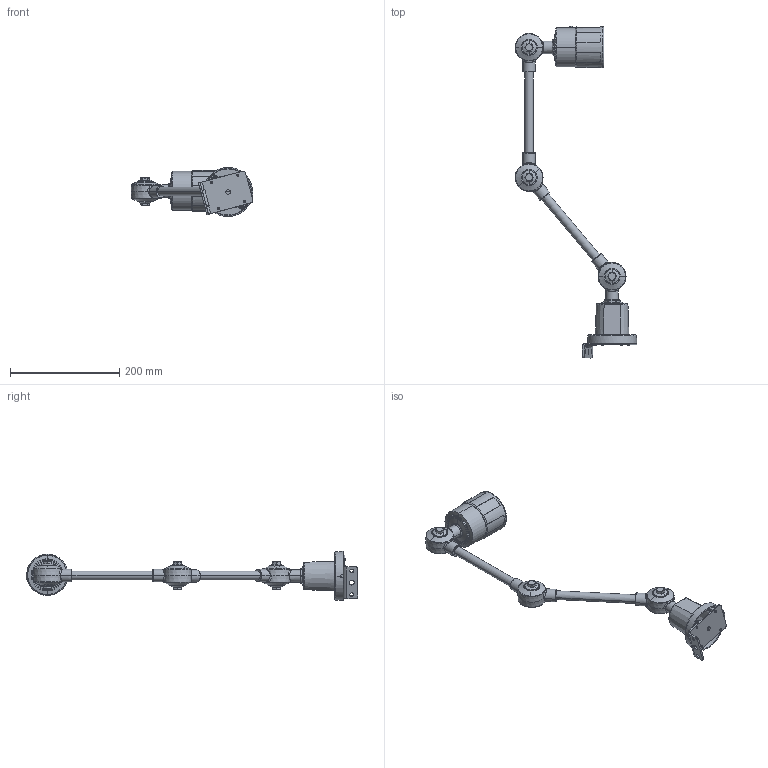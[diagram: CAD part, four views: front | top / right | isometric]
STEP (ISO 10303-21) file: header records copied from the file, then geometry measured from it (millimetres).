
FILE_DESCRIPTION((''),'2;1');
FILE_NAME('THL07-1R','2016-09-28T',('ABS'),(''),'PRO/ENGINEER BY PARAMETRIC TECHNOLOGY CORPORATION, 2012360','PRO/ENGINEER BY PARAMETRIC TECHNOLOGY CORPORATION, 2012360','');
FILE_SCHEMA(('CONFIG_CONTROL_DESIGN'));
Products named in the file (1): THL07-1R
Bounding box: 222.46 x 606.96 x 89.75 mm (x, y, z)
Volume: 472326.7 mm3; surface area: 221877 mm2
Topology: 1 solids, 8 shells, 1532 faces, 4365 edges, 2883 vertices
Faces by surface type: plane 549, cylinder 520, bspline 176, torus 132, cone 104, sphere 48, extrusion 3
Entity records: 70588 total; most frequent: CARTESIAN_POINT 32074, ORIENTED_EDGE 8694, DIRECTION 7375, EDGE_CURVE 4347, AXIS2_PLACEMENT_3D 2890, VERTEX_POINT 2883, EDGE_LOOP 1680, VECTOR 1595
